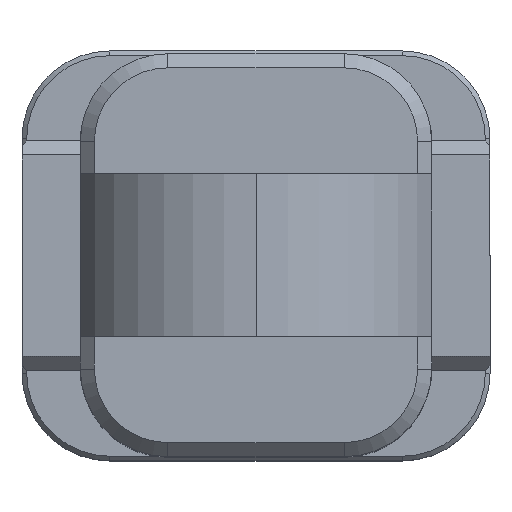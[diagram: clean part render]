
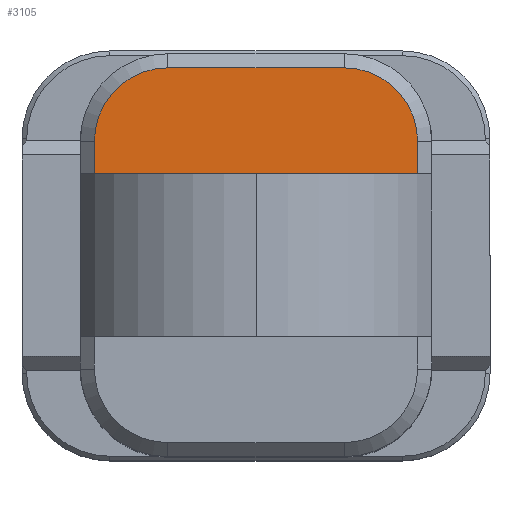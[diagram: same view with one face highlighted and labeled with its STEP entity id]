
A CAD part, top view. The second image highlights one B-rep face of the part: STEP entity #3105.
In plain terms, the highlighted planar face has unit normal (0, 0, 1).
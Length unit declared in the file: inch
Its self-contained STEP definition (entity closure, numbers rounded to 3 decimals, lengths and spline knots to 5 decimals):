
#5 = CIRCLE ( 'NONE', #10, 0.157 ) ;
#8 = VECTOR ( 'NONE', #3792, 39.37008 ) ;
#10 = AXIS2_PLACEMENT_3D ( 'NONE', #3794, #3795, #3796 ) ;
#19 = AXIS2_PLACEMENT_3D ( 'NONE', #3783, #3784, #3785 ) ;
#30 = VECTOR ( 'NONE', #3786, 39.37008 ) ;
#32 = CIRCLE ( 'NONE', #19, 0.157 ) ;
#76 = VECTOR ( 'NONE', #3789, 39.37008 ) ;
#78 = VECTOR ( 'NONE', #3780, 39.37008 ) ;
#1291 = CARTESIAN_POINT ( 'NONE',  ( -0.188, 0.4, 0.683 ) ) ;
#1977 = CARTESIAN_POINT ( 'NONE',  ( -0.345, 0.243, 0.683 ) ) ;
#2076 = CARTESIAN_POINT ( 'NONE',  ( -0.345, 0.174, 0.683 ) ) ;
#2077 = CARTESIAN_POINT ( 'NONE',  ( 0.345, 0.243, 0.683 ) ) ;
#2085 = CARTESIAN_POINT ( 'NONE',  ( 0.345, 0.174, 0.683 ) ) ;
#2086 = CARTESIAN_POINT ( 'NONE',  ( 0.188, 0.4, 0.683 ) ) ;
#2488 = ORIENTED_EDGE ( 'NONE', *, *, #2878, .T. ) ;
#2489 = ORIENTED_EDGE ( 'NONE', *, *, #2877, .T. ) ;
#2490 = ORIENTED_EDGE ( 'NONE', *, *, #2876, .T. ) ;
#2491 = ORIENTED_EDGE ( 'NONE', *, *, #2875, .T. ) ;
#2492 = ORIENTED_EDGE ( 'NONE', *, *, #2874, .T. ) ;
#2493 = ORIENTED_EDGE ( 'NONE', *, *, #2873, .T. ) ;
#2873 = EDGE_CURVE ( 'NONE', #5299, #3281, #3777, .T. ) ;
#2874 = EDGE_CURVE ( 'NONE', #5298, #5299, #32, .T. ) ;
#2875 = EDGE_CURVE ( 'NONE', #5297, #5298, #3778, .T. ) ;
#2876 = EDGE_CURVE ( 'NONE', #5296, #5297, #3787, .T. ) ;
#2877 = EDGE_CURVE ( 'NONE', #4927, #5296, #3790, .T. ) ;
#2878 = EDGE_CURVE ( 'NONE', #3281, #4927, #5, .T. ) ;
#3105 = ADVANCED_FACE ( 'NONE', ( #4114 ), #4115, .F. ) ;
#3281 = VERTEX_POINT ( 'NONE', #1291 ) ;
#3748 = CARTESIAN_POINT ( 'NONE',  ( 0.345, 0.43, 0.683 ) ) ;
#3777 = LINE ( 'NONE', #3779, #78 ) ;
#3778 = LINE ( 'NONE', #3748, #30 ) ;
#3779 = CARTESIAN_POINT ( 'NONE',  ( -0.375, 0.4, 0.683 ) ) ;
#3780 = DIRECTION ( 'NONE',  ( -1., 0., 0. ) ) ;
#3783 = CARTESIAN_POINT ( 'NONE',  ( 0.188, 0.243, 0.683 ) ) ;
#3784 = DIRECTION ( 'NONE',  ( 0., 0., 1. ) ) ;
#3785 = DIRECTION ( 'NONE',  ( -1., 0., 0. ) ) ;
#3786 = DIRECTION ( 'NONE',  ( 0., 1., 0. ) ) ;
#3787 = LINE ( 'NONE', #3788, #76 ) ;
#3788 = CARTESIAN_POINT ( 'NONE',  ( -0.375, 0.174, 0.683 ) ) ;
#3789 = DIRECTION ( 'NONE',  ( 1., 0., 0. ) ) ;
#3790 = LINE ( 'NONE', #3791, #8 ) ;
#3791 = CARTESIAN_POINT ( 'NONE',  ( -0.345, 0.43, 0.683 ) ) ;
#3792 = DIRECTION ( 'NONE',  ( 0., -1., 0. ) ) ;
#3794 = CARTESIAN_POINT ( 'NONE',  ( -0.188, 0.243, 0.683 ) ) ;
#3795 = DIRECTION ( 'NONE',  ( 0., 0., 1. ) ) ;
#3796 = DIRECTION ( 'NONE',  ( -1., 0., 0. ) ) ;
#4021 = AXIS2_PLACEMENT_3D ( 'NONE', #4105, #4117, #4118 ) ;
#4105 = CARTESIAN_POINT ( 'NONE',  ( -0.375, 0.43, 0.683 ) ) ;
#4114 = FACE_OUTER_BOUND ( 'NONE', #4996, .T. ) ;
#4115 = PLANE ( 'NONE',  #4021 ) ;
#4117 = DIRECTION ( 'NONE',  ( 0., 0., -1. ) ) ;
#4118 = DIRECTION ( 'NONE',  ( -1., 0., 0. ) ) ;
#4927 = VERTEX_POINT ( 'NONE', #1977 ) ;
#4996 = EDGE_LOOP ( 'NONE', ( #2488, #2489, #2490, #2491, #2492, #2493 ) ) ;
#5296 = VERTEX_POINT ( 'NONE', #2076 ) ;
#5297 = VERTEX_POINT ( 'NONE', #2085 ) ;
#5298 = VERTEX_POINT ( 'NONE', #2077 ) ;
#5299 = VERTEX_POINT ( 'NONE', #2086 ) ;
